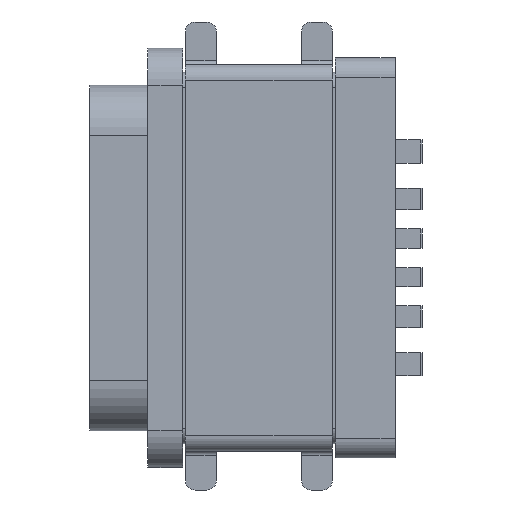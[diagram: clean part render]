
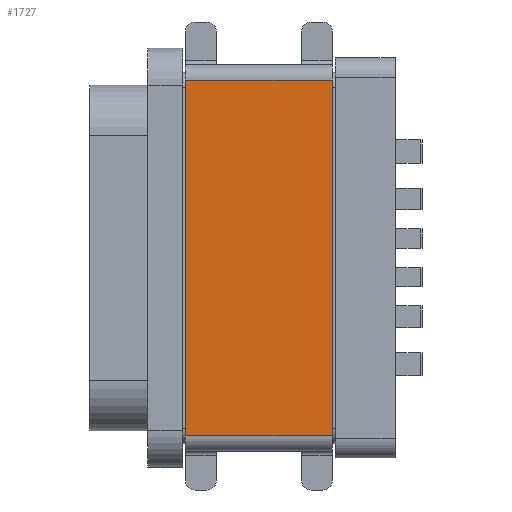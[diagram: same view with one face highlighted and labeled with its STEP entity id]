
A CAD part, front view. The second image highlights one B-rep face of the part: STEP entity #1727.
In plain terms, the highlighted planar face has unit normal (0, -1, 0).
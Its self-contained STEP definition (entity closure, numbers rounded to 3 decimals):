
#219=DIRECTION('',(0.,0.,-1.));
#220=VECTOR('',#219,9.2);
#221=CARTESIAN_POINT('',(-0.875,-2.065,1.65));
#222=LINE('',#221,#220);
#444=DIRECTION('',(-1.,0.,0.));
#445=VECTOR('',#444,3.8);
#446=CARTESIAN_POINT('',(2.925,-2.065,-7.55));
#447=LINE('',#446,#445);
#448=DIRECTION('',(1.,0.,0.));
#449=VECTOR('',#448,3.8);
#450=CARTESIAN_POINT('',(-0.875,-2.065,1.65));
#451=LINE('',#450,#449);
#452=DIRECTION('',(0.,0.,-1.));
#453=VECTOR('',#452,9.2);
#454=CARTESIAN_POINT('',(2.925,-2.065,1.65));
#455=LINE('',#454,#453);
#1125=CARTESIAN_POINT('',(-0.875,-2.065,-7.55));
#1127=VERTEX_POINT('',#1125);
#1128=CARTESIAN_POINT('',(2.925,-2.065,-7.55));
#1129=VERTEX_POINT('',#1128);
#1133=CARTESIAN_POINT('',(2.925,-2.065,1.65));
#1135=VERTEX_POINT('',#1133);
#1136=CARTESIAN_POINT('',(-0.875,-2.065,1.65));
#1137=VERTEX_POINT('',#1136);
#1714=CARTESIAN_POINT('',(1.025,-2.065,-2.95));
#1715=DIRECTION('',(0.,1.,0.));
#1716=DIRECTION('',(0.,0.,1.));
#1717=AXIS2_PLACEMENT_3D('',#1714,#1715,#1716);
#1718=PLANE('',#1717);
#1719=ORIENTED_EDGE('',*,*,#1706,.T.);
#1720=ORIENTED_EDGE('',*,*,#1430,.F.);
#1722=ORIENTED_EDGE('',*,*,#1721,.T.);
#1724=ORIENTED_EDGE('',*,*,#1723,.T.);
#1725=EDGE_LOOP('',(#1719,#1720,#1722,#1724));
#1726=FACE_OUTER_BOUND('',#1725,.F.);
#1727=ADVANCED_FACE('',(#1726),#1718,.F.);
#1430=EDGE_CURVE('',#1137,#1127,#222,.T.);
#1706=EDGE_CURVE('',#1129,#1127,#447,.T.);
#1721=EDGE_CURVE('',#1137,#1135,#451,.T.);
#1723=EDGE_CURVE('',#1135,#1129,#455,.T.);
